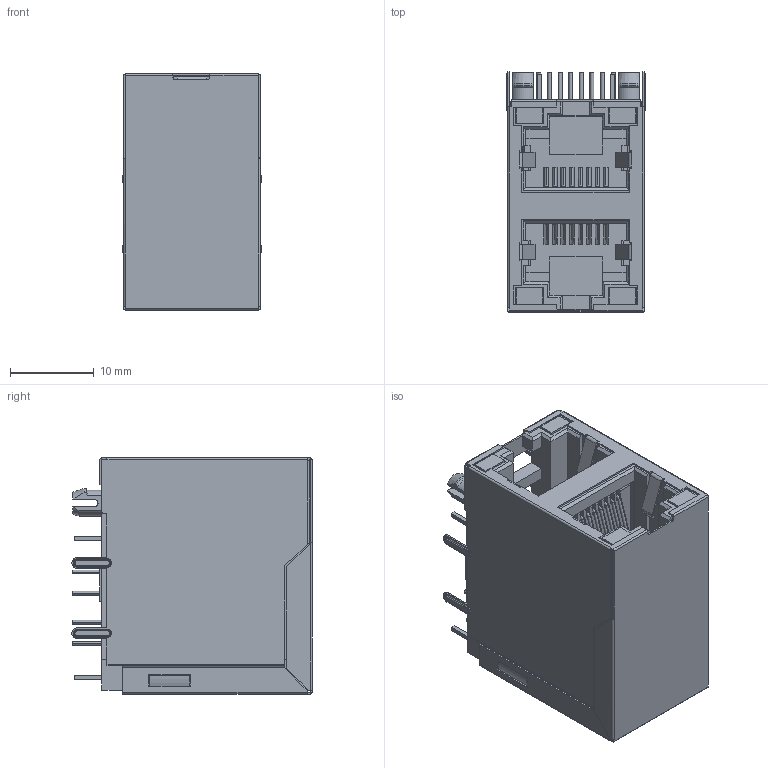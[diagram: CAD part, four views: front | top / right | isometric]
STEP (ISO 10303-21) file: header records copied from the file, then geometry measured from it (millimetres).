
FILE_DESCRIPTION((''),'2;1');
FILE_NAME('DGKYD59212188AB1A1DY1022_ASM','2019-09-27T11:55:38',('Administrator'),(''),'CREO PARAMETRIC BY PTC INC, 2018400','CREO PARAMETRIC BY PTC INC, 2018400','');
FILE_SCHEMA(('CONFIG_CONTROL_DESIGN'));
Length unit declared in the file: millimetre
Products named in the file (11): 59212188A-Y022SU00; LED; CAXING; CAXINGFAN; BEIBU; XIAN-Y-006; ZHEN-Y-1; HOUBAN; LED-ZHEN; 59212488D-022-TONG; DGKYD59212188AB1A1DY1022_ASM
Assembly tree (50 placements, depth 2):
  DGKYD59212188AB1A1DY1022_ASM
    59212188A-Y022SU00
    LED  x4
    CAXING
    CAXINGFAN
    BEIBU
    XIAN-Y-006  x16
    ZHEN-Y-1  x16
    HOUBAN
    LED-ZHEN  x8
    59212488D-022-TONG
Bounding box: 16.75 x 28.75 x 28.25 mm (x, y, z)
Volume: 7380.2 mm3; surface area: 16533.9 mm2
Topology: 50 solids, 50 shells, 1459 faces, 3657 edges, 2300 vertices
Faces by surface type: plane 998, cylinder 325, torus 88, cone 30, bspline 18
Entity records: 36969 total; most frequent: CARTESIAN_POINT 7211, ORIENTED_EDGE 6234, DIRECTION 5957, EDGE_CURVE 3117, VECTOR 2565, LINE 2565, VERTEX_POINT 1980, AXIS2_PLACEMENT_3D 1696
